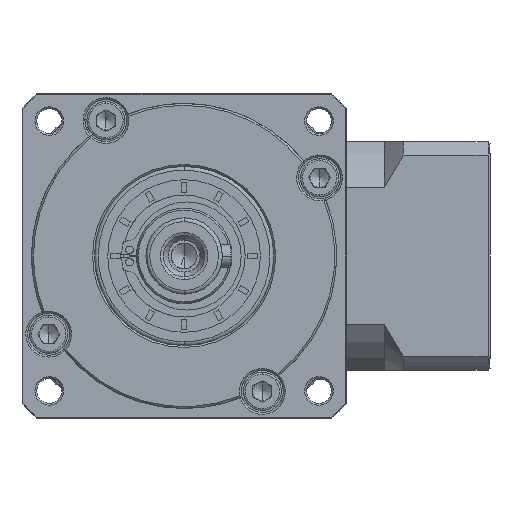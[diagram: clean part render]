
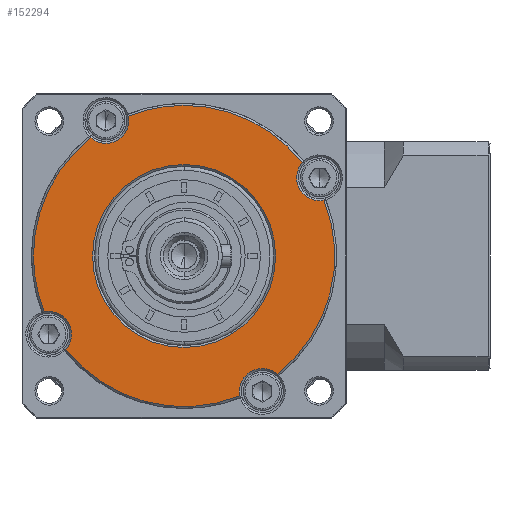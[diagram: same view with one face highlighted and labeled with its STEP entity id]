
A CAD part, left-side view. The second image highlights one B-rep face of the part: STEP entity #152294.
In plain terms, the highlighted planar face has unit normal (-1, 0, 0).
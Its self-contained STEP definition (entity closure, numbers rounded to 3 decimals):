
#3460 = CARTESIAN_POINT ( 'NONE',  ( -83.108, 15.312, -134.314 ) ) ;
#4284 = CIRCLE ( 'NONE', #129516, 39.5 ) ;
#4449 = CARTESIAN_POINT ( 'NONE',  ( -83.108, -21.383, -119.695 ) ) ;
#6449 = DIRECTION ( 'NONE',  ( 1., 0., 0. ) ) ;
#6547 = DIRECTION ( 'NONE',  ( 1., 0., 0. ) ) ;
#8374 = CIRCLE ( 'NONE', #117217, 39.5 ) ;
#8462 = CARTESIAN_POINT ( 'NONE',  ( -83.108, 18.117, -119.695 ) ) ;
#10909 = EDGE_CURVE ( 'NONE', #39399, #111568, #136692, .T. ) ;
#12771 = EDGE_CURVE ( 'NONE', #140997, #144962, #74331, .T. ) ;
#13293 = AXIS2_PLACEMENT_3D ( 'NONE', #20396, #114023, #33964 ) ;
#13339 = EDGE_CURVE ( 'NONE', #59464, #163558, #115984, .T. ) ;
#14212 = DIRECTION ( 'NONE',  ( 1., 0., 0. ) ) ;
#14524 = EDGE_CURVE ( 'NONE', #144962, #59350, #54632, .T. ) ;
#17747 = DIRECTION ( 'NONE',  ( 1., 0., 0. ) ) ;
#17925 = DIRECTION ( 'NONE',  ( 0., -1., 0. ) ) ;
#18860 = DIRECTION ( 'NONE',  ( 1., 0., 0. ) ) ;
#19510 = CIRCLE ( 'NONE', #25196, 24. ) ;
#20396 = CARTESIAN_POINT ( 'NONE',  ( -83.108, -56.89, -99.195 ) ) ;
#25196 = AXIS2_PLACEMENT_3D ( 'NONE', #48068, #141516, #61521 ) ;
#26402 = ORIENTED_EDGE ( 'NONE', *, *, #152617, .T. ) ;
#26830 = CIRCLE ( 'NONE', #119982, 24. ) ;
#31040 = DIRECTION ( 'NONE',  ( 1., 0., 0. ) ) ;
#31435 = DIRECTION ( 'NONE',  ( -1., 0., 0. ) ) ;
#32117 = CARTESIAN_POINT ( 'NONE',  ( -83.108, -0.883, -90.188 ) ) ;
#33964 = DIRECTION ( 'NONE',  ( 0., 0., -1. ) ) ;
#35227 = AXIS2_PLACEMENT_3D ( 'NONE', #111506, #31435, #124962 ) ;
#38416 = DIRECTION ( 'NONE',  ( 1., 0., 0. ) ) ;
#38880 = EDGE_CURVE ( 'NONE', #86372, #103012, #19510, .T. ) ;
#39266 = ORIENTED_EDGE ( 'NONE', *, *, #123318, .T. ) ;
#39399 = VERTEX_POINT ( 'NONE', #8462 ) ;
#40459 = ORIENTED_EDGE ( 'NONE', *, *, #168546, .F. ) ;
#41956 = EDGE_CURVE ( 'NONE', #153493, #59350, #64440, .T. ) ;
#45879 = VERTEX_POINT ( 'NONE', #53861 ) ;
#46516 = AXIS2_PLACEMENT_3D ( 'NONE', #118491, #38416, #131880 ) ;
#46610 = ORIENTED_EDGE ( 'NONE', *, *, #167838, .T. ) ;
#48068 = CARTESIAN_POINT ( 'NONE',  ( -83.108, -21.383, -119.695 ) ) ;
#53861 = CARTESIAN_POINT ( 'NONE',  ( -83.108, -58.078, -105.076 ) ) ;
#54632 = CIRCLE ( 'NONE', #159609, 39.5 ) ;
#55764 = VERTEX_POINT ( 'NONE', #3460 ) ;
#56974 = ORIENTED_EDGE ( 'NONE', *, *, #125917, .F. ) ;
#59350 = VERTEX_POINT ( 'NONE', #68572 ) ;
#59464 = VERTEX_POINT ( 'NONE', #128670 ) ;
#59967 = DIRECTION ( 'NONE',  ( 1., 0., 0. ) ) ;
#61211 = EDGE_LOOP ( 'NONE', ( #39266, #139373 ) ) ;
#61521 = DIRECTION ( 'NONE',  ( 0., -1., 0. ) ) ;
#62647 = DIRECTION ( 'NONE',  ( 1., 0., 0. ) ) ;
#64144 = DIRECTION ( 'NONE',  ( 1., 0., 0. ) ) ;
#64440 = CIRCLE ( 'NONE', #13293, 6. ) ;
#65257 = CARTESIAN_POINT ( 'NONE',  ( -83.108, -21.383, -119.695 ) ) ;
#67534 = ORIENTED_EDGE ( 'NONE', *, *, #10909, .F. ) ;
#68572 = CARTESIAN_POINT ( 'NONE',  ( -83.108, -52.391, -95.225 ) ) ;
#69540 = FACE_OUTER_BOUND ( 'NONE', #120742, .T. ) ;
#72310 = ORIENTED_EDGE ( 'NONE', *, *, #13339, .T. ) ;
#74331 = CIRCLE ( 'NONE', #112264, 39.5 ) ;
#75959 = CIRCLE ( 'NONE', #172358, 6. ) ;
#76931 = VERTEX_POINT ( 'NONE', #32117 ) ;
#78636 = DIRECTION ( 'NONE',  ( 0., 1., 0. ) ) ;
#80617 = CARTESIAN_POINT ( 'NONE',  ( -83.108, 2.617, -119.695 ) ) ;
#85358 = EDGE_CURVE ( 'NONE', #55764, #97858, #130137, .T. ) ;
#86004 = CIRCLE ( 'NONE', #111573, 39.5 ) ;
#86196 = CARTESIAN_POINT ( 'NONE',  ( -83.108, -56.89, -105.195 ) ) ;
#86372 = VERTEX_POINT ( 'NONE', #80617 ) ;
#86647 = CARTESIAN_POINT ( 'NONE',  ( -83.108, -21.383, -119.695 ) ) ;
#86749 = CARTESIAN_POINT ( 'NONE',  ( -83.108, -21.383, -119.695 ) ) ;
#88218 = AXIS2_PLACEMENT_3D ( 'NONE', #99104, #18860, #112494 ) ;
#90662 = CARTESIAN_POINT ( 'NONE',  ( -83.108, -6.764, -83. ) ) ;
#94363 = CARTESIAN_POINT ( 'NONE',  ( -83.108, 14.124, -140.195 ) ) ;
#96563 = ORIENTED_EDGE ( 'NONE', *, *, #14524, .F. ) ;
#97858 = VERTEX_POINT ( 'NONE', #110515 ) ;
#97955 = CARTESIAN_POINT ( 'NONE',  ( -83.108, -41.883, -155.202 ) ) ;
#98146 = DIRECTION ( 'NONE',  ( 1., 0., 0. ) ) ;
#99104 = CARTESIAN_POINT ( 'NONE',  ( -83.108, -0.883, -84.188 ) ) ;
#100148 = DIRECTION ( 'NONE',  ( 0., 0., 1. ) ) ;
#100232 = DIRECTION ( 'NONE',  ( 0., 0., 1. ) ) ;
#100787 = CARTESIAN_POINT ( 'NONE',  ( -83.108, -45.383, -119.695 ) ) ;
#100875 = FACE_BOUND ( 'NONE', #61211, .T. ) ;
#101331 = EDGE_CURVE ( 'NONE', #140997, #76931, #108808, .T. ) ;
#102711 = CIRCLE ( 'NONE', #46516, 6. ) ;
#103012 = VERTEX_POINT ( 'NONE', #100787 ) ;
#107833 = DIRECTION ( 'NONE',  ( 0., 0., -1. ) ) ;
#108808 = CIRCLE ( 'NONE', #88218, 6. ) ;
#108935 = ORIENTED_EDGE ( 'NONE', *, *, #41956, .T. ) ;
#110350 = PLANE ( 'NONE',  #35227 ) ;
#110515 = CARTESIAN_POINT ( 'NONE',  ( -83.108, 9.625, -144.165 ) ) ;
#111097 = CARTESIAN_POINT ( 'NONE',  ( -83.108, -21.383, -119.695 ) ) ;
#111376 = DIRECTION ( 'NONE',  ( 0., 0., -1. ) ) ;
#111506 = CARTESIAN_POINT ( 'NONE',  ( -83.108, -21.383, -119.695 ) ) ;
#111568 = VERTEX_POINT ( 'NONE', #151294 ) ;
#111573 = AXIS2_PLACEMENT_3D ( 'NONE', #142647, #62647, #156062 ) ;
#112264 = AXIS2_PLACEMENT_3D ( 'NONE', #86749, #6547, #100232 ) ;
#112494 = DIRECTION ( 'NONE',  ( 0., 0., -1. ) ) ;
#114023 = DIRECTION ( 'NONE',  ( 1., 0., 0. ) ) ;
#115938 = AXIS2_PLACEMENT_3D ( 'NONE', #94363, #14212, #107833 ) ;
#115984 = CIRCLE ( 'NONE', #116933, 6. ) ;
#116933 = AXIS2_PLACEMENT_3D ( 'NONE', #97955, #17747, #111376 ) ;
#117217 = AXIS2_PLACEMENT_3D ( 'NONE', #111097, #31040, #124555 ) ;
#118491 = CARTESIAN_POINT ( 'NONE',  ( -83.108, -0.883, -84.188 ) ) ;
#119982 = AXIS2_PLACEMENT_3D ( 'NONE', #4449, #98146, #17925 ) ;
#120742 = EDGE_LOOP ( 'NONE', ( #145940, #121415, #26402, #67534, #56974, #125593, #160321, #72310, #40459, #46610, #108935, #96563 ) ) ;
#121415 = ORIENTED_EDGE ( 'NONE', *, *, #101331, .T. ) ;
#123318 = EDGE_CURVE ( 'NONE', #103012, #86372, #26830, .T. ) ;
#124555 = DIRECTION ( 'NONE',  ( 0., 0., 1. ) ) ;
#124962 = DIRECTION ( 'NONE',  ( 0., 0., -1. ) ) ;
#125593 = ORIENTED_EDGE ( 'NONE', *, *, #85358, .T. ) ;
#125917 = EDGE_CURVE ( 'NONE', #55764, #39399, #4284, .T. ) ;
#128670 = CARTESIAN_POINT ( 'NONE',  ( -83.108, -36.002, -156.39 ) ) ;
#129516 = AXIS2_PLACEMENT_3D ( 'NONE', #139976, #59967, #153423 ) ;
#130137 = CIRCLE ( 'NONE', #115938, 6. ) ;
#131880 = DIRECTION ( 'NONE',  ( 0., 0., -1. ) ) ;
#136692 = CIRCLE ( 'NONE', #152182, 39.5 ) ;
#139373 = ORIENTED_EDGE ( 'NONE', *, *, #38880, .T. ) ;
#139976 = CARTESIAN_POINT ( 'NONE',  ( -83.108, -21.383, -119.695 ) ) ;
#140997 = VERTEX_POINT ( 'NONE', #90662 ) ;
#141516 = DIRECTION ( 'NONE',  ( 1., 0., 0. ) ) ;
#142647 = CARTESIAN_POINT ( 'NONE',  ( -83.108, -21.383, -119.695 ) ) ;
#144147 = CARTESIAN_POINT ( 'NONE',  ( -83.108, -56.89, -99.195 ) ) ;
#144962 = VERTEX_POINT ( 'NONE', #156241 ) ;
#145940 = ORIENTED_EDGE ( 'NONE', *, *, #12771, .F. ) ;
#146254 = CARTESIAN_POINT ( 'NONE',  ( -83.108, -45.853, -150.703 ) ) ;
#146498 = EDGE_CURVE ( 'NONE', #59464, #97858, #86004, .T. ) ;
#151294 = CARTESIAN_POINT ( 'NONE',  ( -83.108, 3.087, -88.687 ) ) ;
#152182 = AXIS2_PLACEMENT_3D ( 'NONE', #65257, #158655, #78636 ) ;
#152294 = ADVANCED_FACE ( 'NONE', ( #69540, #100875 ), #110350, .T. ) ;
#152617 = EDGE_CURVE ( 'NONE', #76931, #111568, #102711, .T. ) ;
#153423 = DIRECTION ( 'NONE',  ( 0., 1., 0. ) ) ;
#153493 = VERTEX_POINT ( 'NONE', #86196 ) ;
#156062 = DIRECTION ( 'NONE',  ( 0., 0., 1. ) ) ;
#156241 = CARTESIAN_POINT ( 'NONE',  ( -83.108, -21.383, -80.195 ) ) ;
#157546 = DIRECTION ( 'NONE',  ( 0., 0., -1. ) ) ;
#158655 = DIRECTION ( 'NONE',  ( 1., 0., 0. ) ) ;
#159609 = AXIS2_PLACEMENT_3D ( 'NONE', #86647, #6449, #100148 ) ;
#160321 = ORIENTED_EDGE ( 'NONE', *, *, #146498, .F. ) ;
#163558 = VERTEX_POINT ( 'NONE', #146254 ) ;
#167838 = EDGE_CURVE ( 'NONE', #45879, #153493, #75959, .T. ) ;
#168546 = EDGE_CURVE ( 'NONE', #45879, #163558, #8374, .T. ) ;
#172358 = AXIS2_PLACEMENT_3D ( 'NONE', #144147, #64144, #157546 ) ;
